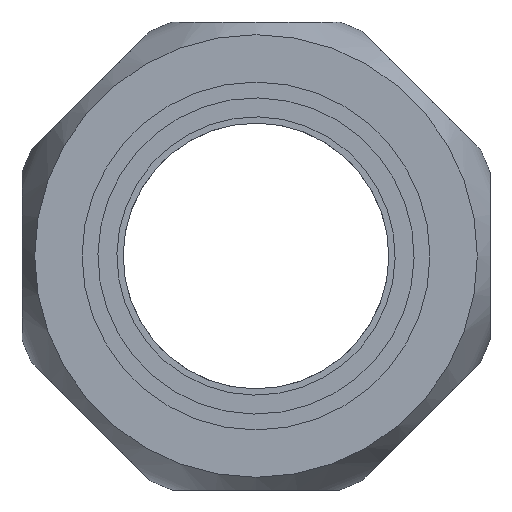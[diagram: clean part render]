
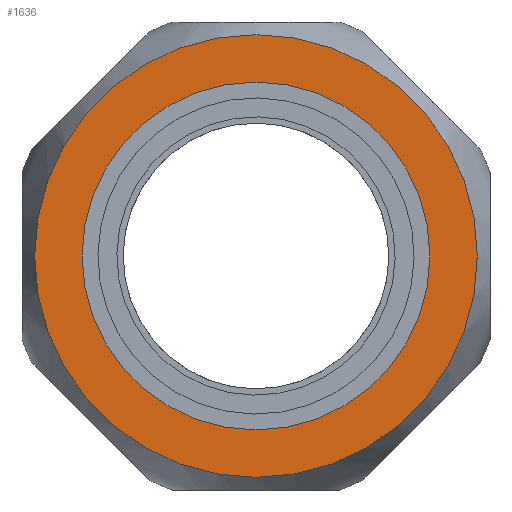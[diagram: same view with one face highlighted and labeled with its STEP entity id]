
A CAD part, left-side view. The second image highlights one B-rep face of the part: STEP entity #1636.
In plain terms, the highlighted planar face has unit normal (-1, 0, 0).
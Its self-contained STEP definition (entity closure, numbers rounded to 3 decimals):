
#1573=CARTESIAN_POINT('',(0.0,17.5,0.0));
#1574=VERTEX_POINT('',#1573);
#1575=CARTESIAN_POINT('',(0.0,0.0,0.0));
#1576=DIRECTION('',(1.0,0.0,0.0));
#1577=DIRECTION('',(0.0,1.0,0.0));
#1578=AXIS2_PLACEMENT_3D('',#1575,#1576,#1577);
#1579=CIRCLE('',#1578,17.5);
#1580=EDGE_CURVE('',#1574,#1574,#1579,.T.);
#1610=CARTESIAN_POINT('',(0.0,13.75,0.0));
#1611=VERTEX_POINT('',#1610);
#1612=CARTESIAN_POINT('',(0.0,0.0,0.0));
#1613=DIRECTION('',(1.0,0.0,0.0));
#1614=DIRECTION('',(0.0,1.0,0.0));
#1615=AXIS2_PLACEMENT_3D('',#1612,#1613,#1614);
#1616=CIRCLE('',#1615,13.75);
#1617=EDGE_CURVE('',#1611,#1611,#1616,.T.);
#1625=CARTESIAN_POINT('',(0.0,15.625,0.0));
#1626=DIRECTION('',(-1.0,0.0,0.0));
#1627=DIRECTION('',(0.0,0.0,1.0));
#1628=AXIS2_PLACEMENT_3D('',#1625,#1626,#1627);
#1629=PLANE('',#1628);
#1630=ORIENTED_EDGE('',*,*,#1580,.F.);
#1631=EDGE_LOOP('',(#1630));
#1632=FACE_OUTER_BOUND('',#1631,.T.);
#1633=ORIENTED_EDGE('',*,*,#1617,.T.);
#1634=EDGE_LOOP('',(#1633));
#1635=FACE_BOUND('',#1634,.T.);
#1636=ADVANCED_FACE('',(#1632,#1635),#1629,.T.);
